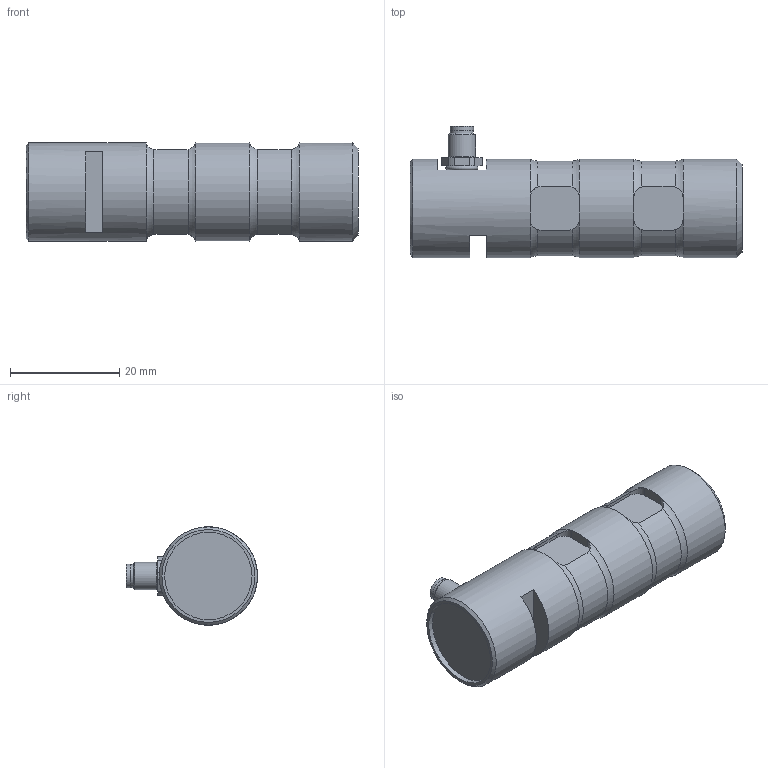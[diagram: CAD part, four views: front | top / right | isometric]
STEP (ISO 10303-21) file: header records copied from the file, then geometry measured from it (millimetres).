
FILE_DESCRIPTION(/* description */ ('Alibre Inc.'),/* implementation_level */ '2;1');
FILE_NAME(/* name */ 'export-CB041A02-7EE7-46D8-B540-4E4799726928',/* time_stamp */ '2022-02-17T12:12:59+01:00',/* author */ (''),/* organization */ (''),/* preprocessor_version */ 'ST-DEVELOPER v17',/* originating_system */ 'Alibre',/* authorisation */ '');
FILE_SCHEMA (('CONFIG_CONTROL_DESIGN'));
Length unit declared in the file: centimetre
Products named in the file (3): kborC9D4rlcb
Bounding box: 60.8 x 24 x 18 mm (x, y, z)
Volume: 14407.4 mm3; surface area: 4668.8 mm2
Topology: 2 solids, 2 shells, 124 faces, 295 edges, 188 vertices
Faces by surface type: plane 54, cylinder 49, torus 10, cone 7, sphere 4
Full cylindrical faces by diameter (mm): 0.48 x4, 0.6 x1, 0.7 x4, 4.25 x1, 4.3 x1, 4.5 x1, 4.989 x1, 5 x2, 16 x1, 18 x3
Entity records: 3553 total; most frequent: CARTESIAN_POINT 777, ORIENTED_EDGE 480, DIRECTION 466, EDGE_CURVE 240, AXIS2_PLACEMENT_3D 214, EDGE_LOOP 173, FACE_BOUND 173, VERTEX_POINT 169
